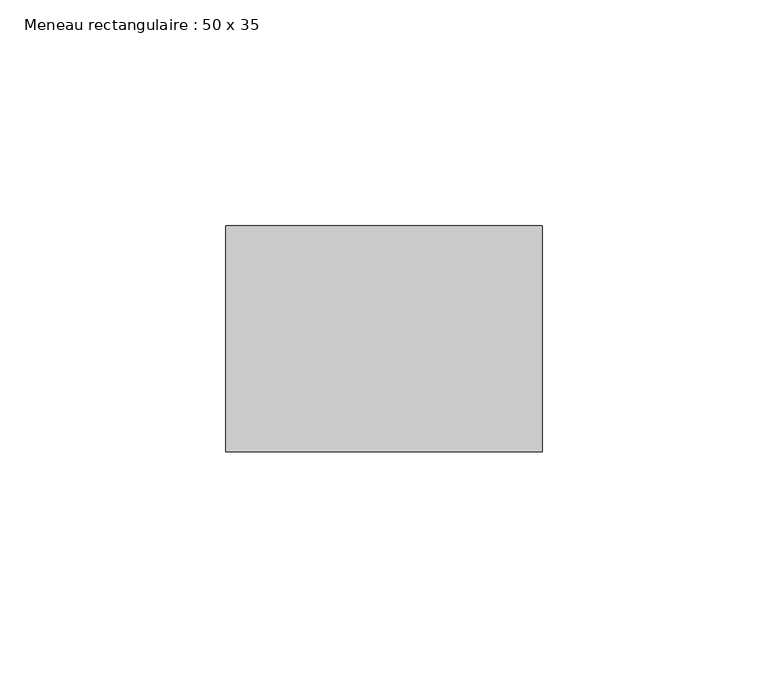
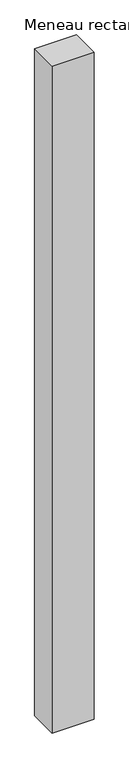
"""IFC4 building model written with IfcOpenShell, lengths in millimetres: member geometry, Meneau rectangulaire : 50 x 35."""

from ifc_helpers import new_model, si_unit, frame, origin, place, context, project, spatial, polyline, outline, extrude, source, transform, mapped, element, save


def meneau_rectangulaire_50_x_35_17627385(model_context):
    return source(origin(), model_context, "Body", "SweptSolid", [
        extrude(outline(polyline([(0.0, 0.0), (0.0, -50.0), (-70.0, -50.0), (-70.0, 0.0), (0.0, 0.0)])), frame((0.0, 0.0, -1174.8927358), z_axis=(0.0, 0.0, 1.0), x_axis=(1.0, 0.0, 0.0)), (0.0, 0.0, 1.0), 1174.8927358),
    ])


if __name__ == "__main__":
    model = new_model("IFC4")
    model_context = context("Model", 3, world=origin())
    ifc_project = project(units=[si_unit("LENGTHUNIT", "METRE", prefix="MILLI")], contexts=[model_context])
    site = spatial("IfcSite", under=ifc_project)
    building = spatial("IfcBuilding", under=site)
    placement = place(None, origin())
    meneau_rectangulaire_50_x_35_shape = meneau_rectangulaire_50_x_35_17627385(model_context)
    element("IfcMember", 1, ObjectType="Meneau rectangulaire : 50 x 35", at=placement, inside=building, context=model_context, shape_type="MappedRepresentation", body=[
        mapped(meneau_rectangulaire_50_x_35_shape, transform((0.0, 0.0, 0.0), x_axis=(1.0, 0.0, 0.0), y_axis=(0.0, 1.0, 0.0), z_axis=(0.0, 0.0, 1.0))),
    ])
    save(model, "model.ifc")
